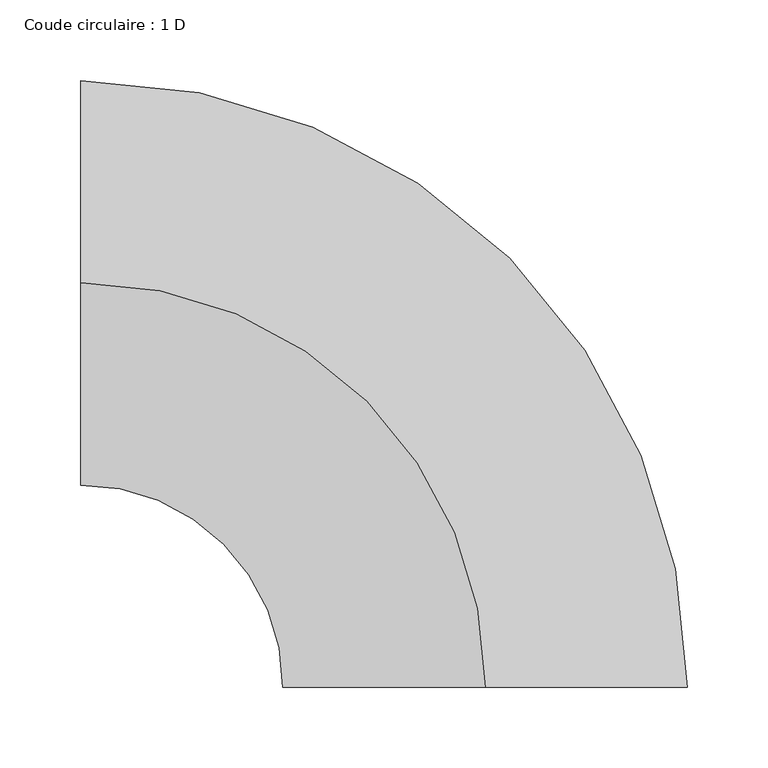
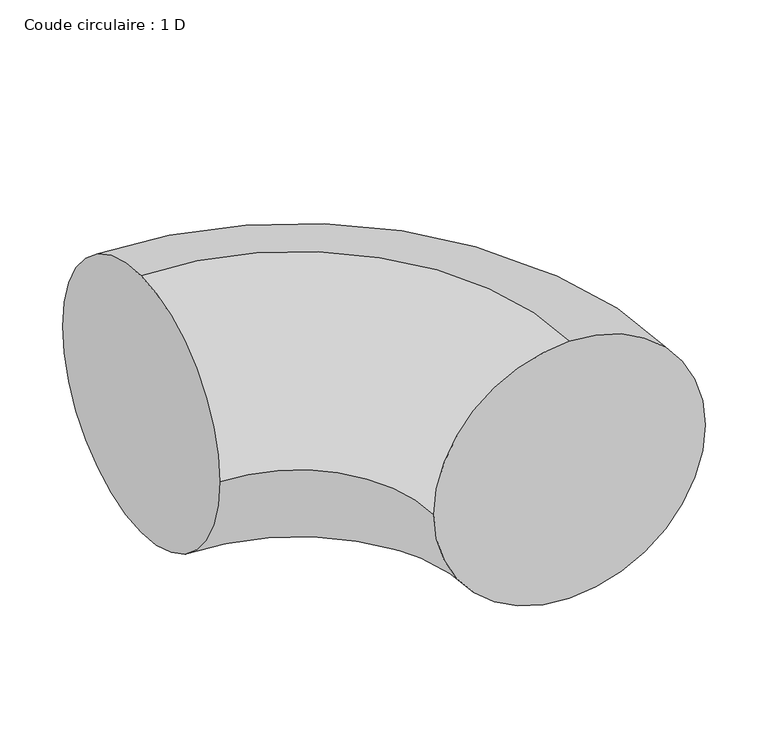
"""IFC4 building model written with IfcOpenShell, lengths in millimetres: duct fitting geometry, Coude circulaire : 1 D."""

from ifc_helpers import new_model, si_unit, point, frame, origin, place, context, project, spatial, circle_curve, ellipse_curve, trimmed, source, transform, mapped, element, save
from ifc_brep_helpers import plane_surface, revolved_surface, advanced_brep


def coude_circulaire_1_d_d42bbd03(model_context):
    return source(origin(), model_context, "Body", "AdvancedBrep", [
        advanced_brep(
        [(-250.0, 0.0, 125.0), (-250.0, 125.0, 0.0), (-250.0, 0.0, -125.0), (-250.0, -125.0, 0.0), (0.0, -250.0, 125.0), (-125.0, -250.0, 0.0), (0.0, -250.0, -125.0), (125.0, -250.0, 0.0)],
        [
            (0, 1, circle_curve(frame((-250.0, 0.0, 0.0), z_axis=(-1.0, 0.0, 0.0), x_axis=(0.0, -1.0, 0.0)), 125.0)),
            (1, 2, circle_curve(frame((-250.0, 0.0, 0.0), z_axis=(-1.0, 0.0, 0.0), x_axis=(0.0, -1.0, 0.0)), 125.0)),
            (2, 3, circle_curve(frame((-250.0, 0.0, 0.0), z_axis=(-1.0, 0.0, 0.0), x_axis=(0.0, -1.0, 0.0)), 125.0)),
            (3, 0, circle_curve(frame((-250.0, 0.0, 0.0), z_axis=(-1.0, 0.0, 0.0), x_axis=(0.0, -1.0, 0.0)), 125.0)),
            (4, 5, circle_curve(frame((0.0, -250.0, 0.0), z_axis=(0.0, -1.0, 0.0), x_axis=(-1.0, 0.0, 0.0)), 125.0)),
            (5, 6, circle_curve(frame((0.0, -250.0, 0.0), z_axis=(0.0, -1.0, 0.0), x_axis=(-1.0, 0.0, 0.0)), 125.0)),
            (6, 7, circle_curve(frame((0.0, -250.0, 0.0), z_axis=(0.0, -1.0, 0.0), x_axis=(-1.0, 0.0, 0.0)), 125.0)),
            (7, 4, circle_curve(frame((0.0, -250.0, 0.0), z_axis=(0.0, -1.0, 0.0), x_axis=(-1.0, 0.0, 0.0)), 125.0)),
            (4, 0, circle_curve(frame((-250.0, -250.0, 125.0), z_axis=(0.0, 0.0, 1.0), x_axis=(0.0, 1.0, 0.0)), 250.0)),
            (3, 5, circle_curve(frame((-250.0, -250.0, 0.0), z_axis=(0.0, 0.0, -1.0), x_axis=(0.0, 1.0, 0.0)), 125.0)),
            (2, 6, circle_curve(frame((-250.0, -250.0, -125.0), z_axis=(0.0, 0.0, -1.0), x_axis=(0.0, 1.0, 0.0)), 250.0)),
            (1, 7, circle_curve(frame((-250.0, -250.0, 0.0), z_axis=(0.0, 0.0, -1.0), x_axis=(0.0, 1.0, 0.0)), 375.0)),
        ],
        [
            plane_surface(frame((-250.0, 0.0, 0.0), z_axis=(-1.0, 0.0, 0.0), x_axis=(0.0, 0.0, 1.0))),
            plane_surface(frame((0.0, -250.0, 0.0), z_axis=(0.0, -1.0, 0.0), x_axis=(0.0, 0.0, 1.0))),
            revolved_surface(trimmed(ellipse_curve(frame((-250.0, 0.0, 0.0), z_axis=(1.0, 0.0, 0.0), x_axis=(0.0, -1.0, 0.0)), 125.0, 125.0), [point((-250.0, 0.0, 125.0))], [point((-250.0, -125.0, 0.0))], True, "CARTESIAN"), (-250.0, -250.0, 0.0), (0.0, 0.0, 1.0)),
            revolved_surface(trimmed(ellipse_curve(frame((-250.0, 0.0, 0.0), z_axis=(1.0, 0.0, 0.0), x_axis=(0.0, -1.0, 0.0)), 125.0, 125.0), [point((-250.0, -125.0, 0.0))], [point((-250.0, 0.0, -125.0))], True, "CARTESIAN"), (-250.0, -250.0, 0.0), (0.0, 0.0, 1.0)),
            revolved_surface(trimmed(ellipse_curve(frame((-250.0, 0.0, 0.0), z_axis=(1.0, 0.0, 0.0), x_axis=(0.0, -1.0, 0.0)), 125.0, 125.0), [point((-250.0, 0.0, -125.0))], [point((-250.0, 125.0, 0.0))], True, "CARTESIAN"), (-250.0, -250.0, 0.0), (0.0, 0.0, 1.0)),
            revolved_surface(trimmed(ellipse_curve(frame((-250.0, 0.0, 0.0), z_axis=(1.0, 0.0, 0.0), x_axis=(0.0, -1.0, 0.0)), 125.0, 125.0), [point((-250.0, 125.0, 0.0))], [point((-250.0, 0.0, 125.0))], True, "CARTESIAN"), (-250.0, -250.0, 0.0), (0.0, 0.0, 1.0)),
        ],
        [
            (0, [[1, 2, 3, 4]]),
            (1, [[5, 6, 7, 8]]),
            (2, [[-5, 9, -4, 10]]),
            (3, [[-6, -10, -3, 11]]),
            (4, [[-7, -11, -2, 12]]),
            (5, [[-8, -12, -1, -9]]),
        ],
    ),
    ])


if __name__ == "__main__":
    model = new_model("IFC4")
    model_context = context("Model", 3, world=origin())
    ifc_project = project(units=[si_unit("LENGTHUNIT", "METRE", prefix="MILLI")], contexts=[model_context])
    site = spatial("IfcSite", under=ifc_project)
    building = spatial("IfcBuilding", under=site)
    placement = place(None, origin())
    coude_circulaire_1_d_shape = coude_circulaire_1_d_d42bbd03(model_context)
    element("IfcDuctFitting", 1, ObjectType="Coude circulaire : 1 D", at=placement, inside=building, context=model_context, shape_type="MappedRepresentation", body=[
        mapped(coude_circulaire_1_d_shape, transform((0.0, 0.0, 0.0), x_axis=(1.0, 0.0, 0.0), y_axis=(0.0, 1.0, 0.0), z_axis=(0.0, 0.0, 1.0))),
    ])
    save(model, "model.ifc")
